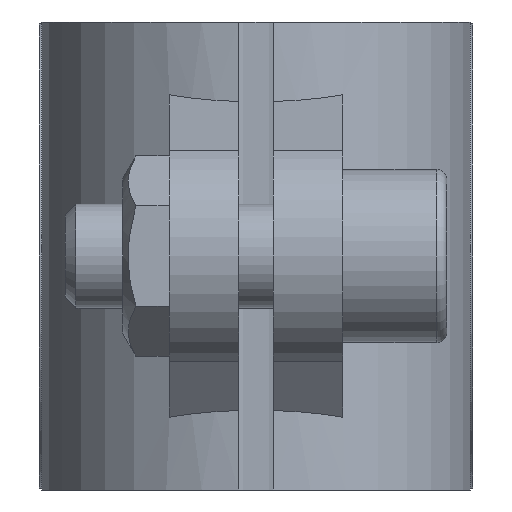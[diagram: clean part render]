
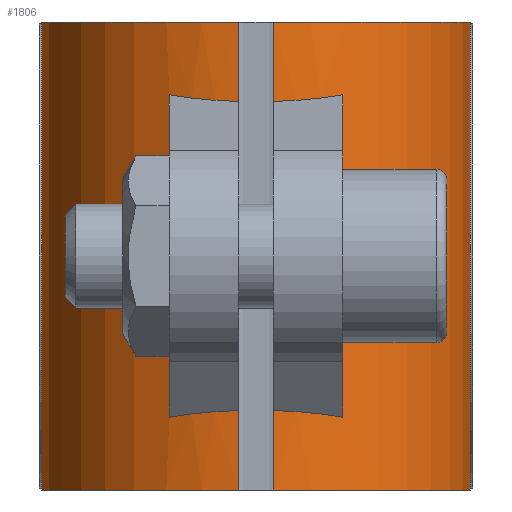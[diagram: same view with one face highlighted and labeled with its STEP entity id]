
A CAD part, front view. The second image highlights one B-rep face of the part: STEP entity #1806.
In plain terms, the highlighted cylindrical face has radius 12.4 mm (diameter 24.8 mm), a partial arc.
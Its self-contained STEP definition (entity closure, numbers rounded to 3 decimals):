
#14=B_SPLINE_CURVE_WITH_KNOTS('',3,(#3025,#3026,#3027,#3028,#3029,#3030,
#3031,#3032,#3033,#3034,#3035,#3036,#3037,#3038,#3039,#3040,#3041,#3042,
#3043,#3044,#3045,#3046,#3047,#3048,#3049,#3050,#3051,#3052,#3053,#3054,
#3055,#3056,#3057,#3058,#3059,#3060,#3061,#3062,#3063,#3064,#3065,#3066,
#3067,#3068,#3069,#3070,#3071,#3072,#3073,#3074),.UNSPECIFIED.,.T.,.F.,
(4,2,2,2,2,2,2,2,2,2,2,2,2,2,2,2,2,2,2,2,2,2,2,2,4),(0.,0.309,
0.618,0.758,0.897,1.138,
1.38,1.621,1.862,2.001,2.141,
2.45,2.759,3.068,3.378,3.517,
3.656,3.897,4.139,4.38,4.621,
4.761,4.9,5.209,5.518),
 .UNSPECIFIED.);
#19=ELLIPSE('',#1962,13.268,12.4);
#20=ELLIPSE('',#1964,13.268,12.4);
#21=ELLIPSE('',#1966,13.268,12.4);
#22=ELLIPSE('',#1981,13.268,12.4);
#92=FACE_BOUND('',#375,.T.);
#257=FACE_OUTER_BOUND('',#374,.T.);
#374=EDGE_LOOP('',(#1576,#1577,#1578,#1579,#1580,#1581,#1582,#1583,#1584,
#1585,#1586,#1587));
#375=EDGE_LOOP('',(#1588));
#473=LINE('',#2915,#611);
#476=LINE('',#2923,#614);
#480=LINE('',#2934,#618);
#483=LINE('',#2942,#621);
#512=LINE('',#3016,#650);
#514=LINE('',#3021,#652);
#611=VECTOR('',#2333,10.);
#614=VECTOR('',#2338,10.);
#618=VECTOR('',#2346,10.);
#621=VECTOR('',#2351,10.);
#650=VECTOR('',#2428,10.);
#652=VECTOR('',#2436,10.);
#704=CIRCLE('',#1969,12.4);
#708=CIRCLE('',#1991,12.4);
#833=VERTEX_POINT('',#2912);
#834=VERTEX_POINT('',#2914);
#837=VERTEX_POINT('',#2920);
#838=VERTEX_POINT('',#2922);
#842=VERTEX_POINT('',#2931);
#843=VERTEX_POINT('',#2933);
#846=VERTEX_POINT('',#2939);
#847=VERTEX_POINT('',#2941);
#853=VERTEX_POINT('',#2959);
#854=VERTEX_POINT('',#2963);
#855=VERTEX_POINT('',#2967);
#868=VERTEX_POINT('',#3015);
#869=VERTEX_POINT('',#3024);
#1052=EDGE_CURVE('',#834,#833,#473,.T.);
#1056=EDGE_CURVE('',#838,#837,#476,.T.);
#1061=EDGE_CURVE('',#843,#842,#480,.T.);
#1065=EDGE_CURVE('',#847,#846,#483,.T.);
#1075=EDGE_CURVE('',#846,#853,#19,.T.);
#1076=EDGE_CURVE('',#854,#834,#20,.T.);
#1078=EDGE_CURVE('',#855,#843,#21,.T.);
#1081=EDGE_CURVE('',#833,#847,#704,.T.);
#1102=EDGE_CURVE('',#868,#854,#512,.T.);
#1104=EDGE_CURVE('',#837,#868,#22,.T.);
#1105=EDGE_CURVE('',#853,#855,#514,.T.);
#1107=EDGE_CURVE('',#869,#869,#14,.T.);
#1110=EDGE_CURVE('',#842,#838,#708,.T.);
#1576=ORIENTED_EDGE('',*,*,#1056,.T.);
#1577=ORIENTED_EDGE('',*,*,#1104,.T.);
#1578=ORIENTED_EDGE('',*,*,#1102,.T.);
#1579=ORIENTED_EDGE('',*,*,#1076,.T.);
#1580=ORIENTED_EDGE('',*,*,#1052,.T.);
#1581=ORIENTED_EDGE('',*,*,#1081,.T.);
#1582=ORIENTED_EDGE('',*,*,#1065,.T.);
#1583=ORIENTED_EDGE('',*,*,#1075,.T.);
#1584=ORIENTED_EDGE('',*,*,#1105,.T.);
#1585=ORIENTED_EDGE('',*,*,#1078,.T.);
#1586=ORIENTED_EDGE('',*,*,#1061,.T.);
#1587=ORIENTED_EDGE('',*,*,#1110,.T.);
#1588=ORIENTED_EDGE('',*,*,#1107,.T.);
#1610=CYLINDRICAL_SURFACE('',#1990,12.4);
#1806=ADVANCED_FACE('',(#257,#92),#1610,.T.);
#1962=AXIS2_PLACEMENT_3D('',#2961,#2370,#2371);
#1964=AXIS2_PLACEMENT_3D('',#2964,#2374,#2375);
#1966=AXIS2_PLACEMENT_3D('',#2968,#2379,#2380);
#1969=AXIS2_PLACEMENT_3D('',#2972,#2386,#2387);
#1981=AXIS2_PLACEMENT_3D('',#3019,#2432,#2433);
#1990=AXIS2_PLACEMENT_3D('',#3080,#2451,#2452);
#1991=AXIS2_PLACEMENT_3D('',#3081,#2453,#2454);
#2333=DIRECTION('',(0.,0.,-1.));
#2338=DIRECTION('',(0.,0.,-1.));
#2346=DIRECTION('',(0.,0.,1.));
#2351=DIRECTION('',(0.,0.,1.));
#2370=DIRECTION('center_axis',(0.,-0.356,-0.935));
#2371=DIRECTION('ref_axis',(0.,-0.935,0.356));
#2374=DIRECTION('center_axis',(0.,-0.356,-0.935));
#2375=DIRECTION('ref_axis',(0.,-0.935,0.356));
#2379=DIRECTION('center_axis',(0.,-0.356,0.935));
#2380=DIRECTION('ref_axis',(0.,-0.935,-0.356));
#2386=DIRECTION('center_axis',(0.,0.,1.));
#2387=DIRECTION('ref_axis',(-1.,0.,0.));
#2428=DIRECTION('',(0.,0.,-1.));
#2432=DIRECTION('center_axis',(0.,-0.356,0.935));
#2433=DIRECTION('ref_axis',(0.,-0.935,-0.356));
#2436=DIRECTION('',(0.,0.,1.));
#2451=DIRECTION('center_axis',(0.,0.,1.));
#2452=DIRECTION('ref_axis',(0.,1.,0.));
#2453=DIRECTION('center_axis',(0.,0.,-1.));
#2454=DIRECTION('ref_axis',(-1.,0.,0.));
#2912=CARTESIAN_POINT('',(1.,-12.36,-13.5));
#2914=CARTESIAN_POINT('',(1.,-12.36,-8.912));
#2915=CARTESIAN_POINT('',(1.,-12.36,0.));
#2920=CARTESIAN_POINT('',(1.,-12.36,8.912));
#2922=CARTESIAN_POINT('',(1.,-12.36,13.5));
#2923=CARTESIAN_POINT('',(1.,-12.36,0.));
#2931=CARTESIAN_POINT('',(-1.,-12.36,13.5));
#2933=CARTESIAN_POINT('',(-1.,-12.36,8.912));
#2934=CARTESIAN_POINT('',(-1.,-12.36,0.));
#2939=CARTESIAN_POINT('',(-1.,-12.36,-8.912));
#2941=CARTESIAN_POINT('',(-1.,-12.36,-13.5));
#2942=CARTESIAN_POINT('',(-1.,-12.36,0.));
#2959=CARTESIAN_POINT('',(-5.,-11.347,-9.297));
#2961=CARTESIAN_POINT('Origin',(0.,0.,-13.616));
#2963=CARTESIAN_POINT('',(5.,-11.347,-9.297));
#2964=CARTESIAN_POINT('Origin',(0.,0.,-13.616));
#2967=CARTESIAN_POINT('',(-5.,-11.347,9.297));
#2968=CARTESIAN_POINT('Origin',(0.,0.,13.616));
#2972=CARTESIAN_POINT('Origin',(0.,0.,-13.5));
#3015=CARTESIAN_POINT('',(5.,-11.347,9.297));
#3016=CARTESIAN_POINT('',(5.,-11.347,0.));
#3019=CARTESIAN_POINT('Origin',(0.,0.,13.616));
#3021=CARTESIAN_POINT('',(-5.,-11.347,0.));
#3024=CARTESIAN_POINT('',(0.,12.4,8.92));
#3025=CARTESIAN_POINT('Ctrl Pts',(0.,12.4,8.92));
#3026=CARTESIAN_POINT('Ctrl Pts',(-1.031,12.4,8.92));
#3027=CARTESIAN_POINT('Ctrl Pts',(-2.131,12.26,8.77));
#3028=CARTESIAN_POINT('Ctrl Pts',(-4.149,11.732,8.119));
#3029=CARTESIAN_POINT('Ctrl Pts',(-5.067,11.347,7.611));
#3030=CARTESIAN_POINT('Ctrl Pts',(-6.117,10.793,6.703));
#3031=CARTESIAN_POINT('Ctrl Pts',(-6.443,10.6,6.364));
#3032=CARTESIAN_POINT('Ctrl Pts',(-7.02,10.228,5.618));
#3033=CARTESIAN_POINT('Ctrl Pts',(-7.27,10.048,5.213));
#3034=CARTESIAN_POINT('Ctrl Pts',(-7.816,9.636,4.144));
#3035=CARTESIAN_POINT('Ctrl Pts',(-8.094,9.397,3.347));
#3036=CARTESIAN_POINT('Ctrl Pts',(-8.45,9.078,1.677));
#3037=CARTESIAN_POINT('Ctrl Pts',(-8.53,9.,0.804));
#3038=CARTESIAN_POINT('Ctrl Pts',(-8.53,9.,-0.804));
#3039=CARTESIAN_POINT('Ctrl Pts',(-8.45,9.078,-1.677));
#3040=CARTESIAN_POINT('Ctrl Pts',(-8.094,9.397,-3.347));
#3041=CARTESIAN_POINT('Ctrl Pts',(-7.816,9.636,-4.144));
#3042=CARTESIAN_POINT('Ctrl Pts',(-7.27,10.048,-5.213));
#3043=CARTESIAN_POINT('Ctrl Pts',(-7.02,10.228,-5.618));
#3044=CARTESIAN_POINT('Ctrl Pts',(-6.443,10.6,-6.364));
#3045=CARTESIAN_POINT('Ctrl Pts',(-6.117,10.793,-6.703));
#3046=CARTESIAN_POINT('Ctrl Pts',(-5.067,11.347,-7.611));
#3047=CARTESIAN_POINT('Ctrl Pts',(-4.149,11.732,-8.119));
#3048=CARTESIAN_POINT('Ctrl Pts',(-2.131,12.26,-8.77));
#3049=CARTESIAN_POINT('Ctrl Pts',(-1.031,12.4,-8.92));
#3050=CARTESIAN_POINT('Ctrl Pts',(1.031,12.4,-8.92));
#3051=CARTESIAN_POINT('Ctrl Pts',(2.131,12.26,-8.77));
#3052=CARTESIAN_POINT('Ctrl Pts',(4.149,11.732,-8.119));
#3053=CARTESIAN_POINT('Ctrl Pts',(5.067,11.347,-7.611));
#3054=CARTESIAN_POINT('Ctrl Pts',(6.117,10.793,-6.703));
#3055=CARTESIAN_POINT('Ctrl Pts',(6.443,10.6,-6.364));
#3056=CARTESIAN_POINT('Ctrl Pts',(7.02,10.228,-5.618));
#3057=CARTESIAN_POINT('Ctrl Pts',(7.27,10.048,-5.213));
#3058=CARTESIAN_POINT('Ctrl Pts',(7.816,9.636,-4.144));
#3059=CARTESIAN_POINT('Ctrl Pts',(8.094,9.397,-3.347));
#3060=CARTESIAN_POINT('Ctrl Pts',(8.45,9.078,-1.677));
#3061=CARTESIAN_POINT('Ctrl Pts',(8.53,9.,-0.804));
#3062=CARTESIAN_POINT('Ctrl Pts',(8.53,9.,0.804));
#3063=CARTESIAN_POINT('Ctrl Pts',(8.45,9.078,1.677));
#3064=CARTESIAN_POINT('Ctrl Pts',(8.094,9.397,3.347));
#3065=CARTESIAN_POINT('Ctrl Pts',(7.816,9.636,4.144));
#3066=CARTESIAN_POINT('Ctrl Pts',(7.27,10.048,5.213));
#3067=CARTESIAN_POINT('Ctrl Pts',(7.02,10.228,5.618));
#3068=CARTESIAN_POINT('Ctrl Pts',(6.443,10.6,6.364));
#3069=CARTESIAN_POINT('Ctrl Pts',(6.117,10.793,6.703));
#3070=CARTESIAN_POINT('Ctrl Pts',(5.067,11.347,7.611));
#3071=CARTESIAN_POINT('Ctrl Pts',(4.149,11.732,8.119));
#3072=CARTESIAN_POINT('Ctrl Pts',(2.131,12.26,8.77));
#3073=CARTESIAN_POINT('Ctrl Pts',(1.031,12.4,8.92));
#3074=CARTESIAN_POINT('Ctrl Pts',(0.,12.4,8.92));
#3080=CARTESIAN_POINT('Origin',(0.,0.,0.));
#3081=CARTESIAN_POINT('Origin',(0.,0.,13.5));
